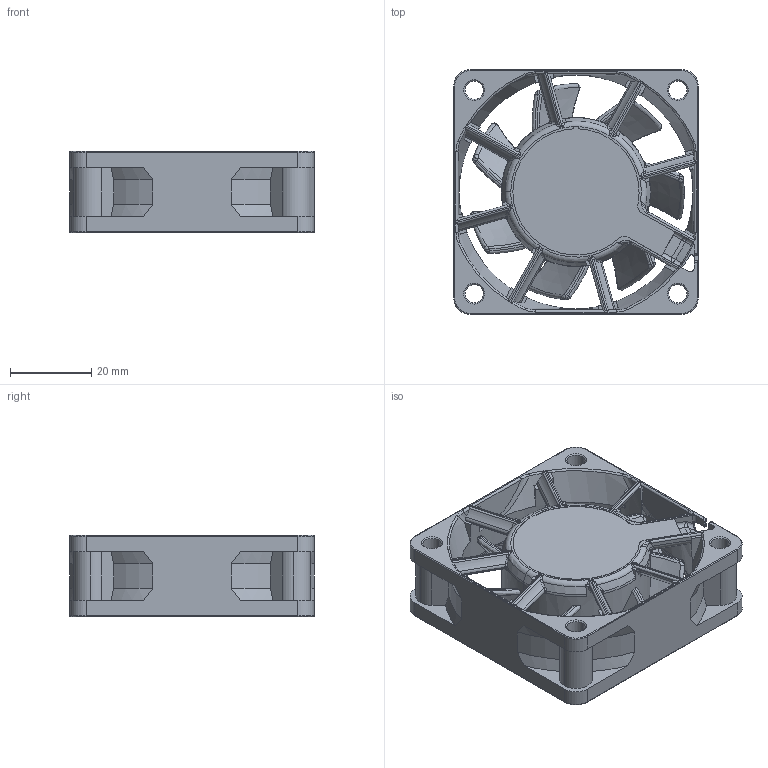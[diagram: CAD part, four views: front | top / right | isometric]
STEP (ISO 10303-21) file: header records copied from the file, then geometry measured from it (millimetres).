
FILE_DESCRIPTION (( 'STEP AP214' ), '1' );
FILE_NAME ('6020WFA_RIBBED.STEP', '2019-05-08T10:18:52', ( '' ), ( '' ), 'SwSTEP 2.0', 'SolidWorks 2017', '' );
FILE_SCHEMA (( 'AUTOMOTIVE_DESIGN' ));
Length unit declared in the file: millimetre
Products named in the file (1): 6020WFA_RIBBED
Bounding box: 60 x 60 x 20 mm (x, y, z)
Volume: 34871 mm3; surface area: 18570.8 mm2
Topology: 1 solids, 1 shells, 682 faces, 1794 edges, 1061 vertices
Faces by surface type: bspline 288, cylinder 155, plane 126, cone 60, torus 53
Entity records: 27081 total; most frequent: CARTESIAN_POINT 12927, ORIENTED_EDGE 3496, DIRECTION 2264, EDGE_CURVE 1748, VERTEX_POINT 1061, AXIS2_PLACEMENT_3D 931, B_SPLINE_CURVE_WITH_KNOTS 774, EDGE_LOOP 699
